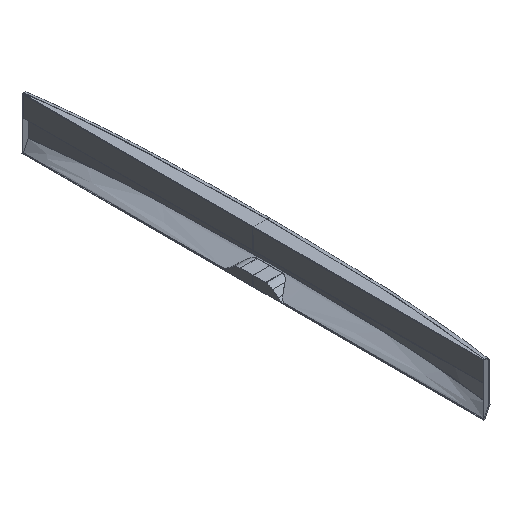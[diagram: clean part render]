
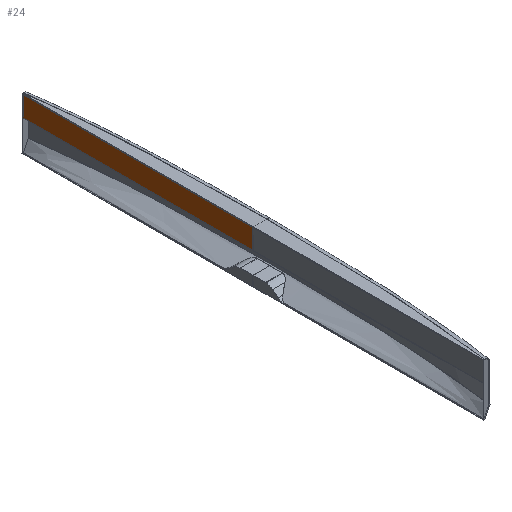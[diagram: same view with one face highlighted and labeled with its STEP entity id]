
A CAD part, isometric view. The second image highlights one B-rep face of the part: STEP entity #24.
In plain terms, the highlighted planar face has unit normal (1, 0, 0).
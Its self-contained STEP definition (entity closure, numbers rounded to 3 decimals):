
#24=ADVANCED_FACE('',(#131),#1523,.T.);
#131=FACE_OUTER_BOUND('',#238,.T.);
#238=EDGE_LOOP('',(#391,#392,#393,#394));
#391=ORIENTED_EDGE('',*,*,#878,.T.);
#392=ORIENTED_EDGE('',*,*,#884,.F.);
#393=ORIENTED_EDGE('',*,*,#882,.F.);
#394=ORIENTED_EDGE('',*,*,#883,.T.);
#878=EDGE_CURVE('',#1392,#1397,#1228,.T.);
#882=EDGE_CURVE('',#1401,#1400,#1232,.T.);
#883=EDGE_CURVE('',#1401,#1392,#1233,.T.);
#884=EDGE_CURVE('',#1400,#1397,#1234,.T.);
#1228=B_SPLINE_CURVE_WITH_KNOTS('',3,(#8970,#8971,#8972,#8973),
 .UNSPECIFIED.,.F.,.F.,(4,4),(-2412.513,-2313.136),
 .UNSPECIFIED.);
#1232=B_SPLINE_CURVE_WITH_KNOTS('',3,(#8992,#8993,#8994,#8995),
 .UNSPECIFIED.,.F.,.F.,(4,4),(1106.136,1203.136),
 .UNSPECIFIED.);
#1233=B_SPLINE_CURVE_WITH_KNOTS('',3,(#8996,#8997,#8998,#8999,#9000,#9001,
#9002,#9003,#9004,#9005,#9006),.UNSPECIFIED.,.F.,.F.,(4,3,1,3,4),(-3519.513,
-2547.549,-2480.462,-2413.376,-2412.513),
 .UNSPECIFIED.);
#1234=B_SPLINE_CURVE_WITH_KNOTS('',3,(#9007,#9008,#9009,#9010,#9011,#9012,
#9013,#9014,#9015,#9016,#9017),.UNSPECIFIED.,.F.,.F.,(4,3,1,3,4),(1203.136,
2177.735,2245.003,2312.27,2313.136),
 .UNSPECIFIED.);
#1392=VERTEX_POINT('',#8306);
#1397=VERTEX_POINT('',#8311);
#1400=VERTEX_POINT('',#8314);
#1401=VERTEX_POINT('',#8315);
#1523=PLANE('',#1718);
#1718=AXIS2_PLACEMENT_3D('',#1992,#1735,$);
#1735=DIRECTION('',(1.,0.,0.));
#1992=CARTESIAN_POINT('',(72489.384,15641.912,597.954));
#8306=CARTESIAN_POINT('',(72489.383,16759.982,499.984));
#8311=CARTESIAN_POINT('',(72489.383,16759.982,596.984));
#8314=CARTESIAN_POINT('',(72489.384,15652.982,596.984));
#8315=CARTESIAN_POINT('',(72489.384,15652.982,499.984));
#8970=CARTESIAN_POINT('',(72489.383,16759.982,499.984));
#8971=CARTESIAN_POINT('',(72489.383,16759.982,532.317));
#8972=CARTESIAN_POINT('',(72489.383,16759.982,564.65));
#8973=CARTESIAN_POINT('',(72489.383,16759.982,596.984));
#8992=CARTESIAN_POINT('',(72489.384,15652.982,499.984));
#8993=CARTESIAN_POINT('',(72489.384,15652.982,532.317));
#8994=CARTESIAN_POINT('',(72489.384,15652.982,564.65));
#8995=CARTESIAN_POINT('',(72489.384,15652.982,596.984));
#8996=CARTESIAN_POINT('',(72489.384,15652.982,499.984));
#8997=CARTESIAN_POINT('',(72489.384,15976.971,499.984));
#8998=CARTESIAN_POINT('',(72489.384,16300.957,499.984));
#8999=CARTESIAN_POINT('',(72489.384,16624.946,499.984));
#9000=CARTESIAN_POINT('',(72489.384,16647.308,499.984));
#9001=CARTESIAN_POINT('',(72489.384,16692.032,499.984));
#9002=CARTESIAN_POINT('',(72489.383,16736.756,499.984));
#9003=CARTESIAN_POINT('',(72489.383,16759.118,499.984));
#9004=CARTESIAN_POINT('',(72489.383,16759.406,499.984));
#9005=CARTESIAN_POINT('',(72489.383,16759.694,499.984));
#9006=CARTESIAN_POINT('',(72489.383,16759.982,499.984));
#9007=CARTESIAN_POINT('',(72489.384,15652.982,596.984));
#9008=CARTESIAN_POINT('',(72489.384,15976.971,596.984));
#9009=CARTESIAN_POINT('',(72489.384,16300.957,596.984));
#9010=CARTESIAN_POINT('',(72489.384,16624.946,596.984));
#9011=CARTESIAN_POINT('',(72489.384,16647.308,596.984));
#9012=CARTESIAN_POINT('',(72489.384,16692.032,596.984));
#9013=CARTESIAN_POINT('',(72489.383,16736.756,596.984));
#9014=CARTESIAN_POINT('',(72489.383,16759.118,596.984));
#9015=CARTESIAN_POINT('',(72489.383,16759.406,596.984));
#9016=CARTESIAN_POINT('',(72489.383,16759.694,596.984));
#9017=CARTESIAN_POINT('',(72489.383,16759.982,596.984));
